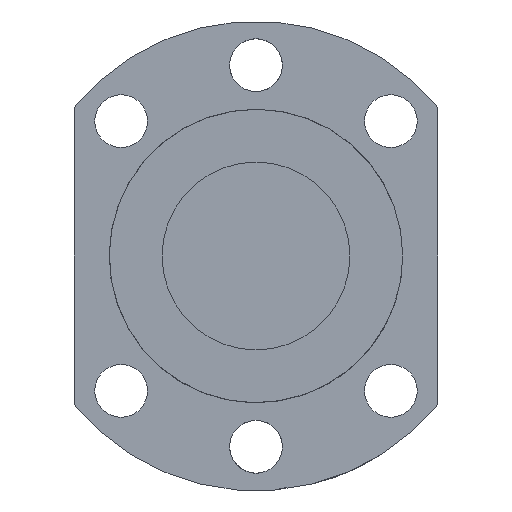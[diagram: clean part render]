
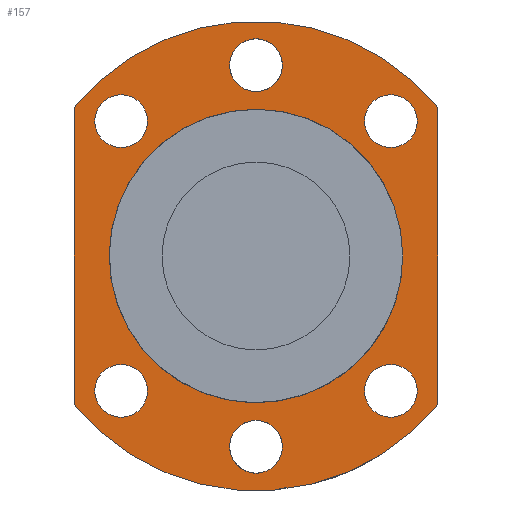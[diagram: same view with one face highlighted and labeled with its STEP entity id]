
A CAD part, front view. The second image highlights one B-rep face of the part: STEP entity #157.
In plain terms, the highlighted planar face has unit normal (0, -1, 0).
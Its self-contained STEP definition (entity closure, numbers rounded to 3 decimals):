
#104=LINE('',#841,#114);
#108=LINE('',#912,#118);
#114=VECTOR('',#657,1.);
#118=VECTOR('',#669,1.);
#139=PLANE('',#589);
#157=ADVANCED_FACE('',(#218,#219,#220,#221,#222,#223,#224,#225),#139,.F.);
#218=FACE_BOUND('',#285,.T.);
#219=FACE_BOUND('',#286,.T.);
#220=FACE_BOUND('',#287,.T.);
#221=FACE_BOUND('',#288,.T.);
#222=FACE_BOUND('',#289,.T.);
#223=FACE_BOUND('',#290,.T.);
#224=FACE_BOUND('',#291,.T.);
#225=FACE_BOUND('',#292,.T.);
#285=EDGE_LOOP('',(#371));
#286=EDGE_LOOP('',(#372));
#287=EDGE_LOOP('',(#373));
#288=EDGE_LOOP('',(#374));
#289=EDGE_LOOP('',(#375));
#290=EDGE_LOOP('',(#376));
#291=EDGE_LOOP('',(#377));
#292=EDGE_LOOP('',(#378,#379,#380,#381));
#371=ORIENTED_EDGE('',*,*,#497,.F.);
#372=ORIENTED_EDGE('',*,*,#498,.F.);
#373=ORIENTED_EDGE('',*,*,#499,.F.);
#374=ORIENTED_EDGE('',*,*,#500,.T.);
#375=ORIENTED_EDGE('',*,*,#501,.T.);
#376=ORIENTED_EDGE('',*,*,#502,.T.);
#377=ORIENTED_EDGE('',*,*,#503,.T.);
#378=ORIENTED_EDGE('',*,*,#477,.F.);
#379=ORIENTED_EDGE('',*,*,#488,.F.);
#380=ORIENTED_EDGE('',*,*,#485,.F.);
#381=ORIENTED_EDGE('',*,*,#481,.F.);
#435=VERTEX_POINT('',#833);
#436=VERTEX_POINT('',#834);
#439=VERTEX_POINT('',#842);
#442=VERTEX_POINT('',#907);
#451=VERTEX_POINT('',#931);
#452=VERTEX_POINT('',#933);
#453=VERTEX_POINT('',#935);
#454=VERTEX_POINT('',#937);
#455=VERTEX_POINT('',#939);
#456=VERTEX_POINT('',#941);
#457=VERTEX_POINT('',#943);
#477=EDGE_CURVE('',#435,#436,#524,.T.);
#481=EDGE_CURVE('',#436,#439,#104,.T.);
#485=EDGE_CURVE('',#439,#442,#526,.T.);
#488=EDGE_CURVE('',#442,#435,#108,.T.);
#497=EDGE_CURVE('',#451,#451,#535,.T.);
#498=EDGE_CURVE('',#452,#452,#536,.T.);
#499=EDGE_CURVE('',#453,#453,#537,.T.);
#500=EDGE_CURVE('',#454,#454,#538,.T.);
#501=EDGE_CURVE('',#455,#455,#539,.T.);
#502=EDGE_CURVE('',#456,#456,#540,.T.);
#503=EDGE_CURVE('',#457,#457,#541,.T.);
#524=CIRCLE('',#566,40.);
#526=CIRCLE('',#570,40.);
#535=CIRCLE('',#582,4.5);
#536=CIRCLE('',#583,4.5);
#537=CIRCLE('',#584,4.5);
#538=CIRCLE('',#585,4.5);
#539=CIRCLE('',#586,4.5);
#540=CIRCLE('',#587,4.5);
#541=CIRCLE('',#588,25.);
#566=AXIS2_PLACEMENT_3D('',#832,#649,#650);
#570=AXIS2_PLACEMENT_3D('',#906,#662,#663);
#582=AXIS2_PLACEMENT_3D('',#930,#689,#690);
#583=AXIS2_PLACEMENT_3D('',#932,#691,#692);
#584=AXIS2_PLACEMENT_3D('',#934,#693,#694);
#585=AXIS2_PLACEMENT_3D('',#936,#695,#696);
#586=AXIS2_PLACEMENT_3D('',#938,#697,#698);
#587=AXIS2_PLACEMENT_3D('',#940,#699,#700);
#588=AXIS2_PLACEMENT_3D('',#942,#701,#702);
#589=AXIS2_PLACEMENT_3D('',#944,#703,#704);
#649=DIRECTION('',(0.,1.,0.));
#650=DIRECTION('',(1.,0.,0.));
#657=DIRECTION('',(0.,0.,-1.));
#662=DIRECTION('',(0.,1.,0.));
#663=DIRECTION('',(1.,0.,0.));
#669=DIRECTION('',(0.,0.,1.));
#689=DIRECTION('',(0.,-1.,0.));
#690=DIRECTION('',(-1.,0.,0.));
#691=DIRECTION('',(0.,-1.,0.));
#692=DIRECTION('',(-0.707,0.,-0.707));
#693=DIRECTION('',(0.,-1.,0.));
#694=DIRECTION('',(0.,0.,-1.));
#695=DIRECTION('',(0.,1.,0.));
#696=DIRECTION('',(-1.,0.,0.));
#697=DIRECTION('',(0.,1.,0.));
#698=DIRECTION('',(-0.707,0.,0.707));
#699=DIRECTION('',(0.,1.,0.));
#700=DIRECTION('',(0.,0.,1.));
#701=DIRECTION('',(0.,1.,0.));
#702=DIRECTION('',(1.,0.,0.));
#703=DIRECTION('',(0.,1.,0.));
#704=DIRECTION('',(0.,0.,1.));
#832=CARTESIAN_POINT('',(0.,-42.5,0.));
#833=CARTESIAN_POINT('',(-31.,-42.5,25.278));
#834=CARTESIAN_POINT('',(31.,-42.5,25.278));
#841=CARTESIAN_POINT('',(31.,-42.5,25.278));
#842=CARTESIAN_POINT('',(31.,-42.5,-25.278));
#906=CARTESIAN_POINT('',(0.,-42.5,0.));
#907=CARTESIAN_POINT('',(-31.,-42.5,-25.278));
#912=CARTESIAN_POINT('',(-31.,-42.5,-25.278));
#930=CARTESIAN_POINT('',(22.981,-42.5,22.981));
#931=CARTESIAN_POINT('',(18.481,-42.5,22.981));
#932=CARTESIAN_POINT('',(0.,-42.5,32.5));
#933=CARTESIAN_POINT('',(-3.182,-42.5,29.318));
#934=CARTESIAN_POINT('',(-22.981,-42.5,22.981));
#935=CARTESIAN_POINT('',(-22.981,-42.5,18.481));
#936=CARTESIAN_POINT('',(22.981,-42.5,-22.981));
#937=CARTESIAN_POINT('',(18.481,-42.5,-22.981));
#938=CARTESIAN_POINT('',(0.,-42.5,-32.5));
#939=CARTESIAN_POINT('',(-3.182,-42.5,-29.318));
#940=CARTESIAN_POINT('',(-22.981,-42.5,-22.981));
#941=CARTESIAN_POINT('',(-22.981,-42.5,-18.481));
#942=CARTESIAN_POINT('',(0.,-42.5,0.));
#943=CARTESIAN_POINT('',(25.,-42.5,0.));
#944=CARTESIAN_POINT('',(0.,-42.5,0.));
